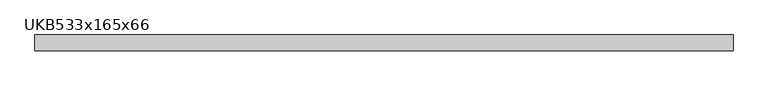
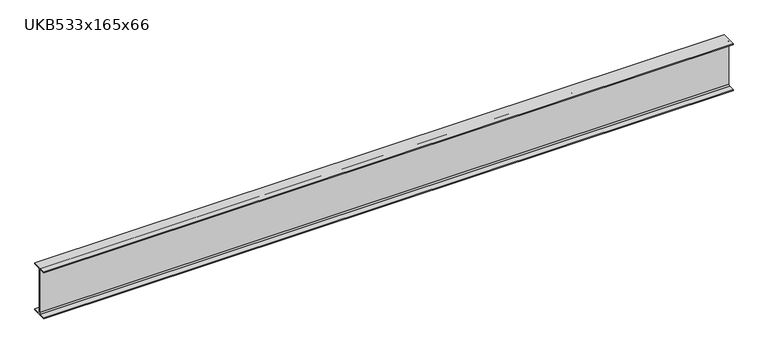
"""IFC4 building model written with IfcOpenShell, lengths in millimetres: beam geometry, UKB-UK Beams : UKB533x165x66."""

from ifc_helpers import new_model, si_unit, point, frame, frame_2d, origin, place, context, project, spatial, polyline, circle_curve, trimmed, segment, composite_curve, outline, extrude, source, transform, mapped, element, save


def ukb533x165x66_6d0a237b(model_context):
    return source(origin(), model_context, "Body", "SweptSolid", [
        extrude(outline(composite_curve([segment(polyline([(82.55, -250.95), (82.55, -262.35), (-82.55, -262.35), (-82.55, -250.95), (-17.15, -250.95)]), True, "CONTINUOUS"), segment(trimmed(circle_curve(frame_2d((-17.15, -238.25)), 12.7), [point((-17.15, -250.95))], [point((-4.45, -238.25))], True, "CARTESIAN"), True, "CONTINUOUS"), segment(polyline([(-4.45, -238.25), (-4.45, 238.25)]), True, "CONTINUOUS"), segment(trimmed(circle_curve(frame_2d((-17.15, 238.25)), 12.7), [point((-4.45, 238.25))], [point((-17.15, 250.95))], True, "CARTESIAN"), True, "CONTINUOUS"), segment(polyline([(-17.15, 250.95), (-82.55, 250.95), (-82.55, 262.35), (82.55, 262.35), (82.55, 250.95), (17.15, 250.95)]), True, "CONTINUOUS"), segment(trimmed(circle_curve(frame_2d((17.15, 238.25)), 12.7), [point((17.15, 250.95))], [point((4.45, 238.25))], True, "CARTESIAN"), True, "CONTINUOUS"), segment(polyline([(4.45, 238.25), (4.45, -238.25)]), True, "CONTINUOUS"), segment(trimmed(circle_curve(frame_2d((17.15, -238.25)), 12.7), [point((4.45, -238.25))], [point((17.15, -250.95))], True, "CARTESIAN"), True, "CONTINUOUS"), segment(polyline([(17.15, -250.95), (82.55, -250.95)]), True, "CONTINUOUS")], self_intersect=False)), frame((-3638.5, 0.0, 0.0), z_axis=(1.0, 0.0, 0.0), x_axis=(0.0, 1.0, 0.0)), (0.0, 0.0, 1.0), 7277.0),
    ])


if __name__ == "__main__":
    model = new_model("IFC4")
    model_context = context("Model", 3, world=origin())
    ifc_project = project(units=[si_unit("LENGTHUNIT", "METRE", prefix="MILLI")], contexts=[model_context])
    site = spatial("IfcSite", under=ifc_project)
    building = spatial("IfcBuilding", under=site)
    placement = place(None, origin())
    ukb533x165x66_shape = ukb533x165x66_6d0a237b(model_context)
    element("IfcBeam", 1, ObjectType="UKB-UK Beams : UKB533x165x66", at=placement, inside=building, context=model_context, shape_type="MappedRepresentation", body=[
        mapped(ukb533x165x66_shape, transform((0.0, 0.0, 0.0), x_axis=(1.0, 0.0, 0.0), y_axis=(0.0, 1.0, 0.0), z_axis=(0.0, 0.0, 1.0))),
    ])
    save(model, "model.ifc")
